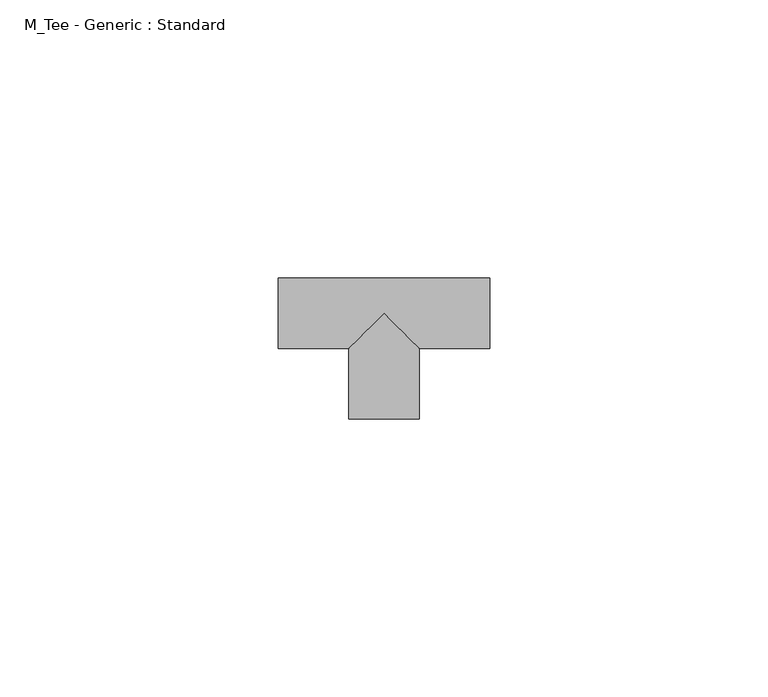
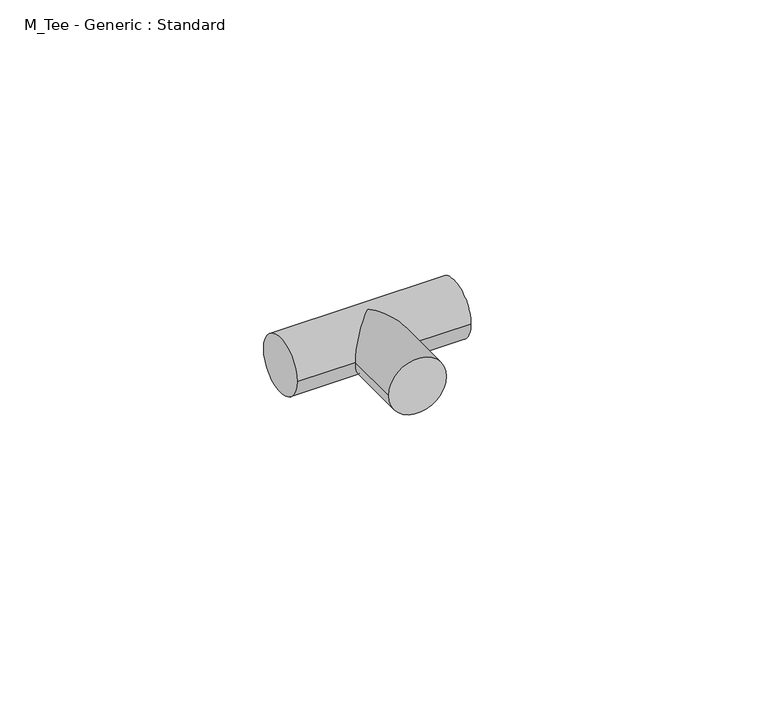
"""IFC4 building model written with IfcOpenShell, lengths in millimetres: pipe fitting geometry, M_Tee - Generic : Standard."""

from ifc_helpers import new_model, si_unit, frame, origin, place, context, project, spatial, circle_curve, ellipse_curve, source, transform, mapped, element, save
from ifc_brep_helpers import plane_surface, cylinder_surface, advanced_brep


def m_tee_generic_standard_d9c36a1d(model_context):
    return source(origin(), model_context, "Body", "AdvancedBrep", [
        advanced_brep(
        [(-19.0375, -6.3375, 0.0), (-19.0375, 6.3375, 0.0), (19.0375, -6.3375, 0.0), (19.0375, 6.3375, 0.0), (-6.3375, -6.3375, 0.0), (0.0, 0.0, 6.3375), (6.3375, -6.3375, 0.0), (0.0, 0.0, -6.3375), (-6.3375, -19.0375, 0.0), (6.3375, -19.0375, 0.0)],
        [
            (0, 1, circle_curve(frame((-19.0375, 0.0, 0.0), z_axis=(-1.0, 0.0, 0.0), x_axis=(0.0, 1.0, 0.0)), 6.3375)),
            (1, 0, circle_curve(frame((-19.0375, 0.0, 0.0), z_axis=(-1.0, 0.0, 0.0), x_axis=(0.0, 1.0, 0.0)), 6.3375)),
            (2, 3, circle_curve(frame((19.0375, 0.0, 0.0), z_axis=(1.0, 0.0, 0.0), x_axis=(0.0, 1.0, 0.0)), 6.3375)),
            (3, 2, circle_curve(frame((19.0375, 0.0, 0.0), z_axis=(1.0, 0.0, 0.0), x_axis=(0.0, 1.0, 0.0)), 6.3375)),
            (0, 4),
            (4, 5, ellipse_curve(frame((0.0, 0.0, 0.0), z_axis=(-0.707106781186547, 0.7071067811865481, 0.0), x_axis=(-0.707106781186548, -0.707106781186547, 0.0)), 8.9625785, 6.3375)),
            (5, 6, ellipse_curve(frame((0.0, 0.0, 0.0), z_axis=(0.707106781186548, 0.7071067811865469, 0.0), x_axis=(-0.707106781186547, 0.707106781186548, 0.0)), 8.9625785, 6.3375)),
            (6, 2),
            (3, 1),
            (6, 7, ellipse_curve(frame((0.0, 0.0, 0.0), z_axis=(0.707106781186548, 0.7071067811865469, 0.0), x_axis=(-0.707106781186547, 0.707106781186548, 0.0)), 8.9625785, 6.3375)),
            (7, 4, ellipse_curve(frame((0.0, 0.0, 0.0), z_axis=(-0.707106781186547, 0.7071067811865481, 0.0), x_axis=(-0.707106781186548, -0.707106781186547, 0.0)), 8.9625785, 6.3375)),
            (8, 9, circle_curve(frame((0.0, -19.0375, 0.0), z_axis=(0.0, -1.0, 0.0), x_axis=(1.0, 0.0, 0.0)), 6.3375)),
            (9, 8, circle_curve(frame((0.0, -19.0375, 0.0), z_axis=(0.0, -1.0, 0.0), x_axis=(1.0, 0.0, 0.0)), 6.3375)),
            (9, 6),
            (4, 8),
        ],
        [
            plane_surface(frame((-19.0375, 0.0, 0.0), z_axis=(-1.0, 0.0, 0.0), x_axis=(0.0, 0.0, 1.0))),
            plane_surface(frame((19.0375, 0.0, 0.0), z_axis=(1.0, 0.0, 0.0), x_axis=(0.0, 0.0, 1.0))),
            cylinder_surface(frame((-19.0375, 0.0, 0.0), z_axis=(-1.0, 0.0, 0.0), x_axis=(0.0, 1.0, 0.0)), 6.3375),
            plane_surface(frame((0.0, -19.0375, 0.0), z_axis=(0.0, -1.0, 0.0), x_axis=(0.0, 0.0, 1.0))),
            cylinder_surface(frame((0.0, 0.0, 0.0), z_axis=(0.0, 1.0, 0.0), x_axis=(1.0, 0.0, 0.0)), 6.3375),
        ],
        [
            (0, [[1, 2]]),
            (1, [[3, 4]]),
            (2, [[-1, 5, 6, 7, 8, -4, 9]]),
            (2, [[-2, -9, -3, -8, 10, 11, -5]]),
            (3, [[12, 13]]),
            (4, [[-13, 14, -7, -6, 15]]),
            (4, [[-12, -15, -11, -10, -14]]),
        ],
    ),
    ])


if __name__ == "__main__":
    model = new_model("IFC4")
    model_context = context("Model", 3, world=origin())
    ifc_project = project(units=[si_unit("LENGTHUNIT", "METRE", prefix="MILLI")], contexts=[model_context])
    site = spatial("IfcSite", under=ifc_project)
    building = spatial("IfcBuilding", under=site)
    placement = place(None, origin())
    m_tee_generic_standard_shape = m_tee_generic_standard_d9c36a1d(model_context)
    element("IfcPipeFitting", 1, ObjectType="M_Tee - Generic : Standard", at=placement, inside=building, context=model_context, shape_type="MappedRepresentation", body=[
        mapped(m_tee_generic_standard_shape, transform((0.0, 0.0, 0.0), x_axis=(1.0, 0.0, 0.0), y_axis=(0.0, 1.0, 0.0), z_axis=(0.0, 0.0, 1.0))),
    ])
    save(model, "model.ifc")
